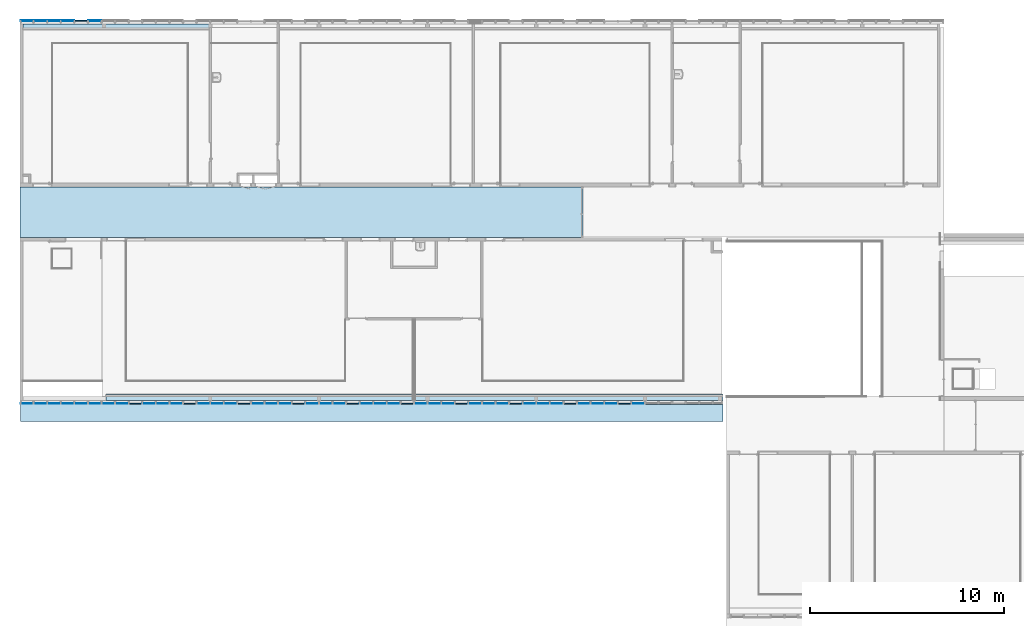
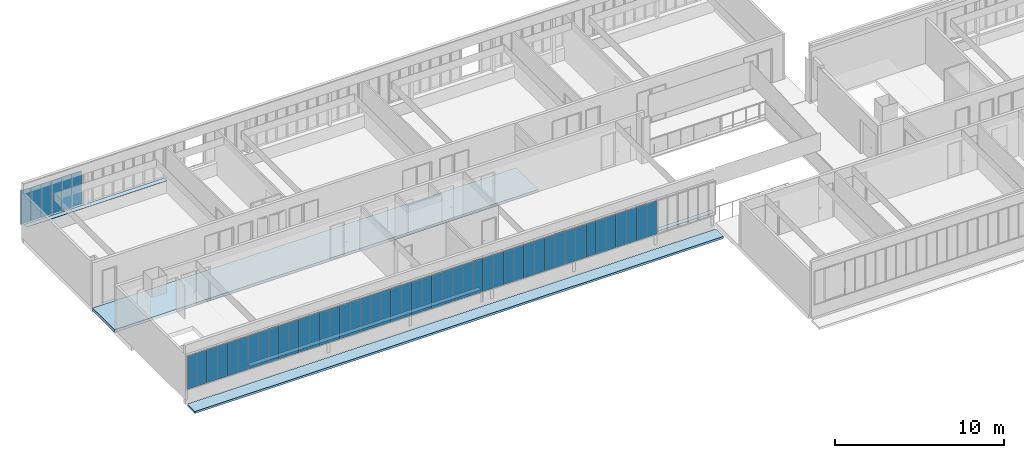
# One storey, part 19 of 87: 52 plates, 5 slabs, 2 elements without a shape of their own.
"""IFC2X3 building model written with IfcOpenShell, lengths in centimetres."""

from ifc_helpers import new_model, entity, si_unit, converted_unit, derived_unit, direction, frame, frame_2d, origin, origin_2d_with_axis, place, context, subcontext, project, spatial, rectangle, extrude, face_set, faceted_brep, surface_model, source, transform, mapped, material, layer, layer_set, layer_usage, type_object, type_shapes, element, aggregate, save


model = new_model("IFC2X3")

# Units and contexts
model_context = context("Model", 3, precision=0.001, world=origin(), true_north=direction((6.12303176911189e-17, 1.0)))
body_context = subcontext(model_context, "Body", "Model", "MODEL_VIEW")
ifc_project = project(units=[si_unit("LENGTHUNIT", "METRE", prefix="CENTI"), si_unit("AREAUNIT", "SQUARE_METRE"), si_unit("VOLUMEUNIT", "CUBIC_METRE"), converted_unit("PLANEANGLEUNIT", "DEGREE", entity("IfcRatioMeasure", 0.0174532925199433), si_unit("PLANEANGLEUNIT", "RADIAN"), dimensions=[0, 0, 0, 0, 0, 0, 0]), si_unit("MASSUNIT", "GRAM", prefix="KILO"), derived_unit("MASSDENSITYUNIT", [(si_unit("MASSUNIT", "GRAM", prefix="KILO"), 1), (si_unit("LENGTHUNIT", "METRE"), -3)]), si_unit("TIMEUNIT", "SECOND"), si_unit("FREQUENCYUNIT", "HERTZ"), si_unit("THERMODYNAMICTEMPERATUREUNIT", "DEGREE_CELSIUS"), derived_unit("THERMALTRANSMITTANCEUNIT", [(si_unit("MASSUNIT", "GRAM", prefix="KILO"), 1), (si_unit("THERMODYNAMICTEMPERATUREUNIT", "KELVIN"), -1), (si_unit("TIMEUNIT", "SECOND"), -3)]), derived_unit("VOLUMETRICFLOWRATEUNIT", [(si_unit("LENGTHUNIT", "METRE"), 3), (si_unit("TIMEUNIT", "SECOND"), -1)]), si_unit("ELECTRICCURRENTUNIT", "AMPERE"), si_unit("ELECTRICVOLTAGEUNIT", "VOLT"), si_unit("POWERUNIT", "WATT"), si_unit("FORCEUNIT", "NEWTON", prefix="KILO"), si_unit("ILLUMINANCEUNIT", "LUX"), si_unit("LUMINOUSFLUXUNIT", "LUMEN"), si_unit("LUMINOUSINTENSITYUNIT", "CANDELA"), derived_unit("USERDEFINED", [(si_unit("MASSUNIT", "GRAM", prefix="KILO"), -1), (si_unit("LENGTHUNIT", "METRE"), -2), (si_unit("TIMEUNIT", "SECOND"), 3), (si_unit("LUMINOUSFLUXUNIT", "LUMEN"), 1)]), derived_unit("LINEARVELOCITYUNIT", [(si_unit("LENGTHUNIT", "METRE"), 1), (si_unit("TIMEUNIT", "SECOND"), -1)]), si_unit("PRESSUREUNIT", "PASCAL"), derived_unit("USERDEFINED", [(si_unit("LENGTHUNIT", "METRE"), -2), (si_unit("MASSUNIT", "GRAM", prefix="KILO"), 1), (si_unit("TIMEUNIT", "SECOND"), -2)])], contexts=[model_context])

# Site, building, storey
site_placement = place(None, frame((-2781.94577612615, 7442.24238424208, 0.0)))
site = spatial("IfcSite", under=ifc_project, at=site_placement, Name="Default", CompositionType="ELEMENT")
building_placement = place(site_placement, origin())
building = spatial("IfcBuilding", under=site, at=building_placement, CompositionType="ELEMENT")
storey_placement = place(building_placement, frame((0.0, 0.0, 774.0)))
storey = spatial("IfcBuildingStorey", under=building, at=storey_placement, Name="TR - N02 - ARCH", CompositionType="ELEMENT", Elevation=774.0)

# Curtain wall, plate
curtain_wall_type = type_object("IfcCurtainWallType", Name="Mur-rideau:07 - mur rideau trame 70cm", PredefinedType="NOTDEFINED")
curtain_wall_1_placement = place(storey_placement, frame((0.0, 0.0, -774.0)))
curtain_wall_1 = element("IfcCurtainWall", 1, at=curtain_wall_1_placement, inside=storey, type_object=curtain_wall_type, Name="Mur-rideau:07 - mur rideau trame 70cm", ObjectType="Mur-rideau:07 - mur rideau trame 70cm")
ifc_material_1 = material(Name="Verre")
ifc_layer_1 = layer(ifc_material_1, 4.0)
ifc_layer_set_1 = layer_set([ifc_layer_1], Name="Panneau système:Vitré")
ifc_layer_usage_1 = layer_usage(ifc_layer_set_1, "AXIS3", "POSITIVE", 0.0)
plate_type_1 = type_object("IfcPlateType", Name="Vitré", PredefinedType="CURTAIN_PANEL", material=ifc_layer_set_1)
shared_shape_1 = source(origin(), body_context, "Body", "SweptSolid", [
    extrude(rectangle(XDim=4.0, YDim=65.0125000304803, at=origin_2d_with_axis()), frame((0.0, 0.0, 0.0), z_axis=(0.0, 0.0, 1.0), x_axis=(0.0, 1.0, 0.0)), (0.0, 0.0, 1.0), 240.7625),
])
type_shapes(plate_type_1, [shared_shape_1])
plate_1_placement = place(curtain_wall_1_placement, frame((-8372.87487763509, 26.2000000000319, 861.61875), z_axis=(0.0, 0.0, 1.0), x_axis=(-1.0, 0.0, 0.0)))
plate_1 = element("IfcPlate", 2, at=plate_1_placement, type_object=plate_type_1, material=ifc_layer_usage_1, Name="Panneau système:Vitré", ObjectType="Panneau système:Vitré", context=body_context, shape_type="MappedRepresentation", body=[
    mapped(shared_shape_1, transform((0.0, 0.0, 0.0), scale=1.0)),
])

curtain_wall_2_placement = place(storey_placement, frame((0.0, 0.0, -774.0)))
curtain_wall_2 = element("IfcCurtainWall", 3, at=curtain_wall_2_placement, inside=storey, type_object=curtain_wall_type, Name="Mur-rideau:07 - mur rideau trame 70cm", ObjectType="Mur-rideau:07 - mur rideau trame 70cm")
ifc_layer_usage_2 = layer_usage(ifc_layer_set_1, "AXIS3", "POSITIVE", 0.0)
plate_2_placement = place(curtain_wall_2_placement, frame((-8372.87487765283, -1946.27903364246, 861.61875)))
plate_2 = element("IfcPlate", 4, at=plate_2_placement, type_object=plate_type_1, material=ifc_layer_usage_2, Name="Panneau système:Vitré", ObjectType="Panneau système:Vitré", context=body_context, shape_type="MappedRepresentation", body=[
    mapped(shared_shape_1, transform((0.0, 0.0, 0.0), scale=1.0)),
])

# Plate
ifc_layer_usage_3 = layer_usage(ifc_layer_set_1, "AXIS3", "POSITIVE", 0.0)
plate_type_2 = type_object("IfcPlateType", Name="Vitré", PredefinedType="CURTAIN_PANEL", material=ifc_layer_set_1)
shared_shape_2 = source(origin(), body_context, "Body", "SweptSolid", [
    extrude(rectangle(XDim=4.0, YDim=68.2624999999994, at=origin_2d_with_axis()), frame((0.0, 0.0, 0.0), z_axis=(0.0, 0.0, 1.0), x_axis=(0.0, 1.0, 0.0)), (0.0, 0.0, 1.0), 240.7625),
])
type_shapes(plate_type_2, [shared_shape_2])
plate_3_placement = place(curtain_wall_1_placement, frame((-8024.4998776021, 26.2000000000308, 861.61875), z_axis=(0.0, 0.0, 1.0), x_axis=(-1.0, 0.0, 0.0)))
plate_3 = element("IfcPlate", 5, at=plate_3_placement, type_object=plate_type_2, material=ifc_layer_usage_3, Name="Panneau système:Vitré", ObjectType="Panneau système:Vitré", context=body_context, shape_type="MappedRepresentation", body=[
    mapped(shared_shape_2, transform((0.0, 0.0, 0.0), scale=1.0)),
])

ifc_layer_usage_4 = layer_usage(ifc_layer_set_1, "AXIS3", "POSITIVE", 0.0)
plate_4_placement = place(curtain_wall_1_placement, frame((-8164.4998776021, 26.2000000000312, 861.61875), z_axis=(0.0, 0.0, 1.0), x_axis=(-1.0, 0.0, 0.0)))
plate_4 = element("IfcPlate", 6, at=plate_4_placement, type_object=plate_type_2, material=ifc_layer_usage_4, Name="Panneau système:Vitré", ObjectType="Panneau système:Vitré", context=body_context, shape_type="MappedRepresentation", body=[
    mapped(shared_shape_2, transform((0.0, 0.0, 0.0), scale=1.0)),
])

ifc_layer_usage_5 = layer_usage(ifc_layer_set_1, "AXIS3", "POSITIVE", 0.0)
plate_5_placement = place(curtain_wall_1_placement, frame((-8234.49987760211, 26.2000000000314, 861.61875), z_axis=(0.0, 0.0, 1.0), x_axis=(-1.0, 0.0, 0.0)))
plate_5 = element("IfcPlate", 7, at=plate_5_placement, type_object=plate_type_2, material=ifc_layer_usage_5, Name="Panneau système:Vitré", ObjectType="Panneau système:Vitré", context=body_context, shape_type="MappedRepresentation", body=[
    mapped(shared_shape_2, transform((0.0, 0.0, 0.0), scale=1.0)),
])

ifc_layer_usage_6 = layer_usage(ifc_layer_set_1, "AXIS3", "POSITIVE", 0.0)
plate_6_placement = place(curtain_wall_1_placement, frame((-8304.4998776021, 26.2000000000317, 861.61875), z_axis=(0.0, 0.0, 1.0), x_axis=(-1.0, 0.0, 0.0)))
plate_6 = element("IfcPlate", 8, at=plate_6_placement, type_object=plate_type_2, material=ifc_layer_usage_6, Name="Panneau système:Vitré", ObjectType="Panneau système:Vitré", context=body_context, shape_type="MappedRepresentation", body=[
    mapped(shared_shape_2, transform((0.0, 0.0, 0.0), scale=1.0)),
])

ifc_layer_usage_7 = layer_usage(ifc_layer_set_1, "AXIS3", "POSITIVE", 0.0)
plate_7_placement = place(curtain_wall_2_placement, frame((-8304.49987763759, -1946.27903364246, 861.61875)))
plate_7 = element("IfcPlate", 9, at=plate_7_placement, type_object=plate_type_2, material=ifc_layer_usage_7, Name="Panneau système:Vitré", ObjectType="Panneau système:Vitré", context=body_context, shape_type="MappedRepresentation", body=[
    mapped(shared_shape_2, transform((0.0, 0.0, 0.0), scale=1.0)),
])

ifc_layer_usage_8 = layer_usage(ifc_layer_set_1, "AXIS3", "POSITIVE", 0.0)
plate_8_placement = place(curtain_wall_2_placement, frame((-8234.49987763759, -1946.27903364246, 861.61875)))
plate_8 = element("IfcPlate", 10, at=plate_8_placement, type_object=plate_type_2, material=ifc_layer_usage_8, Name="Panneau système:Vitré", ObjectType="Panneau système:Vitré", context=body_context, shape_type="MappedRepresentation", body=[
    mapped(shared_shape_2, transform((0.0, 0.0, 0.0), scale=1.0)),
])

ifc_layer_usage_9 = layer_usage(ifc_layer_set_1, "AXIS3", "POSITIVE", 0.0)
plate_9_placement = place(curtain_wall_2_placement, frame((-8164.49987763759, -1946.27903364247, 861.61875)))
plate_9 = element("IfcPlate", 11, at=plate_9_placement, type_object=plate_type_2, material=ifc_layer_usage_9, Name="Panneau système:Vitré", ObjectType="Panneau système:Vitré", context=body_context, shape_type="MappedRepresentation", body=[
    mapped(shared_shape_2, transform((0.0, 0.0, 0.0), scale=1.0)),
])

ifc_layer_usage_10 = layer_usage(ifc_layer_set_1, "AXIS3", "POSITIVE", 0.0)
plate_10_placement = place(curtain_wall_2_placement, frame((-8094.49987763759, -1946.27903364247, 861.61875)))
plate_10 = element("IfcPlate", 12, at=plate_10_placement, type_object=plate_type_2, material=ifc_layer_usage_10, Name="Panneau système:Vitré", ObjectType="Panneau système:Vitré", context=body_context, shape_type="MappedRepresentation", body=[
    mapped(shared_shape_2, transform((0.0, 0.0, 0.0), scale=1.0)),
])

ifc_layer_usage_11 = layer_usage(ifc_layer_set_1, "AXIS3", "POSITIVE", 0.0)
plate_11_placement = place(curtain_wall_2_placement, frame((-8024.49987763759, -1946.27903364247, 861.61875)))
plate_11 = element("IfcPlate", 13, at=plate_11_placement, type_object=plate_type_2, material=ifc_layer_usage_11, Name="Panneau système:Vitré", ObjectType="Panneau système:Vitré", context=body_context, shape_type="MappedRepresentation", body=[
    mapped(shared_shape_2, transform((0.0, 0.0, 0.0), scale=1.0)),
])

ifc_layer_usage_12 = layer_usage(ifc_layer_set_1, "AXIS3", "POSITIVE", 0.0)
plate_12_placement = place(curtain_wall_2_placement, frame((-7954.49987763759, -1946.27903364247, 861.61875)))
plate_12 = element("IfcPlate", 14, at=plate_12_placement, type_object=plate_type_2, material=ifc_layer_usage_12, Name="Panneau système:Vitré", ObjectType="Panneau système:Vitré", context=body_context, shape_type="MappedRepresentation", body=[
    mapped(shared_shape_2, transform((0.0, 0.0, 0.0), scale=1.0)),
])

ifc_layer_usage_13 = layer_usage(ifc_layer_set_1, "AXIS3", "POSITIVE", 0.0)
plate_13_placement = place(curtain_wall_2_placement, frame((-7884.49987763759, -1946.27903364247, 861.61875)))
plate_13 = element("IfcPlate", 15, at=plate_13_placement, type_object=plate_type_2, material=ifc_layer_usage_13, Name="Panneau système:Vitré", ObjectType="Panneau système:Vitré", context=body_context, shape_type="MappedRepresentation", body=[
    mapped(shared_shape_2, transform((0.0, 0.0, 0.0), scale=1.0)),
])

ifc_layer_usage_14 = layer_usage(ifc_layer_set_1, "AXIS3", "POSITIVE", 0.0)
plate_14_placement = place(curtain_wall_2_placement, frame((-7744.49987763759, -1946.27903364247, 861.61875)))
plate_14 = element("IfcPlate", 16, at=plate_14_placement, type_object=plate_type_2, material=ifc_layer_usage_14, Name="Panneau système:Vitré", ObjectType="Panneau système:Vitré", context=body_context, shape_type="MappedRepresentation", body=[
    mapped(shared_shape_2, transform((0.0, 0.0, 0.0), scale=1.0)),
])

ifc_layer_usage_15 = layer_usage(ifc_layer_set_1, "AXIS3", "POSITIVE", 0.0)
plate_15_placement = place(curtain_wall_2_placement, frame((-7674.49987763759, -1946.27903364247, 861.61875)))
plate_15 = element("IfcPlate", 17, at=plate_15_placement, type_object=plate_type_2, material=ifc_layer_usage_15, Name="Panneau système:Vitré", ObjectType="Panneau système:Vitré", context=body_context, shape_type="MappedRepresentation", body=[
    mapped(shared_shape_2, transform((0.0, 0.0, 0.0), scale=1.0)),
])

ifc_layer_usage_16 = layer_usage(ifc_layer_set_1, "AXIS3", "POSITIVE", 0.0)
plate_16_placement = place(curtain_wall_2_placement, frame((-7604.49987763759, -1946.27903364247, 861.61875)))
plate_16 = element("IfcPlate", 18, at=plate_16_placement, type_object=plate_type_2, material=ifc_layer_usage_16, Name="Panneau système:Vitré", ObjectType="Panneau système:Vitré", context=body_context, shape_type="MappedRepresentation", body=[
    mapped(shared_shape_2, transform((0.0, 0.0, 0.0), scale=1.0)),
])

ifc_layer_usage_17 = layer_usage(ifc_layer_set_1, "AXIS3", "POSITIVE", 0.0)
plate_17_placement = place(curtain_wall_2_placement, frame((-7464.49987763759, -1946.27903364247, 861.61875)))
plate_17 = element("IfcPlate", 19, at=plate_17_placement, type_object=plate_type_2, material=ifc_layer_usage_17, Name="Panneau système:Vitré", ObjectType="Panneau système:Vitré", context=body_context, shape_type="MappedRepresentation", body=[
    mapped(shared_shape_2, transform((0.0, 0.0, 0.0), scale=1.0)),
])

ifc_layer_usage_18 = layer_usage(ifc_layer_set_1, "AXIS3", "POSITIVE", 0.0)
plate_18_placement = place(curtain_wall_2_placement, frame((-7394.49987763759, -1946.27903364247, 861.61875)))
plate_18 = element("IfcPlate", 20, at=plate_18_placement, type_object=plate_type_2, material=ifc_layer_usage_18, Name="Panneau système:Vitré", ObjectType="Panneau système:Vitré", context=body_context, shape_type="MappedRepresentation", body=[
    mapped(shared_shape_2, transform((0.0, 0.0, 0.0), scale=1.0)),
])

ifc_layer_usage_19 = layer_usage(ifc_layer_set_1, "AXIS3", "POSITIVE", 0.0)
plate_19_placement = place(curtain_wall_2_placement, frame((-7324.49987763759, -1946.27903364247, 861.61875)))
plate_19 = element("IfcPlate", 21, at=plate_19_placement, type_object=plate_type_2, material=ifc_layer_usage_19, Name="Panneau système:Vitré", ObjectType="Panneau système:Vitré", context=body_context, shape_type="MappedRepresentation", body=[
    mapped(shared_shape_2, transform((0.0, 0.0, 0.0), scale=1.0)),
])

ifc_layer_usage_20 = layer_usage(ifc_layer_set_1, "AXIS3", "POSITIVE", 0.0)
plate_20_placement = place(curtain_wall_2_placement, frame((-7184.49987763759, -1946.27903364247, 861.61875)))
plate_20 = element("IfcPlate", 22, at=plate_20_placement, type_object=plate_type_2, material=ifc_layer_usage_20, Name="Panneau système:Vitré", ObjectType="Panneau système:Vitré", context=body_context, shape_type="MappedRepresentation", body=[
    mapped(shared_shape_2, transform((0.0, 0.0, 0.0), scale=1.0)),
])

ifc_layer_usage_21 = layer_usage(ifc_layer_set_1, "AXIS3", "POSITIVE", 0.0)
plate_21_placement = place(curtain_wall_2_placement, frame((-7114.49987763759, -1946.27903364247, 861.61875)))
plate_21 = element("IfcPlate", 23, at=plate_21_placement, type_object=plate_type_2, material=ifc_layer_usage_21, Name="Panneau système:Vitré", ObjectType="Panneau système:Vitré", context=body_context, shape_type="MappedRepresentation", body=[
    mapped(shared_shape_2, transform((0.0, 0.0, 0.0), scale=1.0)),
])

ifc_layer_usage_22 = layer_usage(ifc_layer_set_1, "AXIS3", "POSITIVE", 0.0)
plate_22_placement = place(curtain_wall_2_placement, frame((-7044.49987763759, -1946.27903364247, 861.61875)))
plate_22 = element("IfcPlate", 24, at=plate_22_placement, type_object=plate_type_2, material=ifc_layer_usage_22, Name="Panneau système:Vitré", ObjectType="Panneau système:Vitré", context=body_context, shape_type="MappedRepresentation", body=[
    mapped(shared_shape_2, transform((0.0, 0.0, 0.0), scale=1.0)),
])

ifc_layer_usage_23 = layer_usage(ifc_layer_set_1, "AXIS3", "POSITIVE", 0.0)
plate_23_placement = place(curtain_wall_2_placement, frame((-6904.49987763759, -1946.27903364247, 861.61875)))
plate_23 = element("IfcPlate", 25, at=plate_23_placement, type_object=plate_type_2, material=ifc_layer_usage_23, Name="Panneau système:Vitré", ObjectType="Panneau système:Vitré", context=body_context, shape_type="MappedRepresentation", body=[
    mapped(shared_shape_2, transform((0.0, 0.0, 0.0), scale=1.0)),
])

ifc_layer_usage_24 = layer_usage(ifc_layer_set_1, "AXIS3", "POSITIVE", 0.0)
plate_24_placement = place(curtain_wall_2_placement, frame((-6834.49987763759, -1946.27903364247, 861.61875)))
plate_24 = element("IfcPlate", 26, at=plate_24_placement, type_object=plate_type_2, material=ifc_layer_usage_24, Name="Panneau système:Vitré", ObjectType="Panneau système:Vitré", context=body_context, shape_type="MappedRepresentation", body=[
    mapped(shared_shape_2, transform((0.0, 0.0, 0.0), scale=1.0)),
])

ifc_layer_usage_25 = layer_usage(ifc_layer_set_1, "AXIS3", "POSITIVE", 0.0)
plate_25_placement = place(curtain_wall_2_placement, frame((-6764.49987763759, -1946.27903364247, 861.61875)))
plate_25 = element("IfcPlate", 27, at=plate_25_placement, type_object=plate_type_2, material=ifc_layer_usage_25, Name="Panneau système:Vitré", ObjectType="Panneau système:Vitré", context=body_context, shape_type="MappedRepresentation", body=[
    mapped(shared_shape_2, transform((0.0, 0.0, 0.0), scale=1.0)),
])

ifc_layer_usage_26 = layer_usage(ifc_layer_set_1, "AXIS3", "POSITIVE", 0.0)
plate_26_placement = place(curtain_wall_2_placement, frame((-6624.49987763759, -1946.27903364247, 861.61875)))
plate_26 = element("IfcPlate", 28, at=plate_26_placement, type_object=plate_type_2, material=ifc_layer_usage_26, Name="Panneau système:Vitré", ObjectType="Panneau système:Vitré", context=body_context, shape_type="MappedRepresentation", body=[
    mapped(shared_shape_2, transform((0.0, 0.0, 0.0), scale=1.0)),
])

ifc_layer_usage_27 = layer_usage(ifc_layer_set_1, "AXIS3", "POSITIVE", 0.0)
plate_27_placement = place(curtain_wall_2_placement, frame((-6554.49987763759, -1946.27903364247, 861.61875)))
plate_27 = element("IfcPlate", 29, at=plate_27_placement, type_object=plate_type_2, material=ifc_layer_usage_27, Name="Panneau système:Vitré", ObjectType="Panneau système:Vitré", context=body_context, shape_type="MappedRepresentation", body=[
    mapped(shared_shape_2, transform((0.0, 0.0, 0.0), scale=1.0)),
])

ifc_layer_usage_28 = layer_usage(ifc_layer_set_1, "AXIS3", "POSITIVE", 0.0)
plate_28_placement = place(curtain_wall_2_placement, frame((-6484.49987763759, -1946.27903364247, 861.61875)))
plate_28 = element("IfcPlate", 30, at=plate_28_placement, type_object=plate_type_2, material=ifc_layer_usage_28, Name="Panneau système:Vitré", ObjectType="Panneau système:Vitré", context=body_context, shape_type="MappedRepresentation", body=[
    mapped(shared_shape_2, transform((0.0, 0.0, 0.0), scale=1.0)),
])

ifc_layer_usage_29 = layer_usage(ifc_layer_set_1, "AXIS3", "POSITIVE", 0.0)
plate_29_placement = place(curtain_wall_2_placement, frame((-6344.49987763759, -1946.27903364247, 861.61875)))
plate_29 = element("IfcPlate", 31, at=plate_29_placement, type_object=plate_type_2, material=ifc_layer_usage_29, Name="Panneau système:Vitré", ObjectType="Panneau système:Vitré", context=body_context, shape_type="MappedRepresentation", body=[
    mapped(shared_shape_2, transform((0.0, 0.0, 0.0), scale=1.0)),
])

ifc_layer_usage_30 = layer_usage(ifc_layer_set_1, "AXIS3", "POSITIVE", 0.0)
plate_30_placement = place(curtain_wall_2_placement, frame((-6274.49987763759, -1946.27903364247, 861.61875)))
plate_30 = element("IfcPlate", 32, at=plate_30_placement, type_object=plate_type_2, material=ifc_layer_usage_30, Name="Panneau système:Vitré", ObjectType="Panneau système:Vitré", context=body_context, shape_type="MappedRepresentation", body=[
    mapped(shared_shape_2, transform((0.0, 0.0, 0.0), scale=1.0)),
])

ifc_layer_usage_31 = layer_usage(ifc_layer_set_1, "AXIS3", "POSITIVE", 0.0)
plate_31_placement = place(curtain_wall_2_placement, frame((-6204.49987763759, -1946.27903364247, 861.61875)))
plate_31 = element("IfcPlate", 33, at=plate_31_placement, type_object=plate_type_2, material=ifc_layer_usage_31, Name="Panneau système:Vitré", ObjectType="Panneau système:Vitré", context=body_context, shape_type="MappedRepresentation", body=[
    mapped(shared_shape_2, transform((0.0, 0.0, 0.0), scale=1.0)),
])

ifc_layer_usage_32 = layer_usage(ifc_layer_set_1, "AXIS3", "POSITIVE", 0.0)
plate_32_placement = place(curtain_wall_2_placement, frame((-6064.49987763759, -1946.27903364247, 861.61875)))
plate_32 = element("IfcPlate", 34, at=plate_32_placement, type_object=plate_type_2, material=ifc_layer_usage_32, Name="Panneau système:Vitré", ObjectType="Panneau système:Vitré", context=body_context, shape_type="MappedRepresentation", body=[
    mapped(shared_shape_2, transform((0.0, 0.0, 0.0), scale=1.0)),
])

ifc_layer_usage_33 = layer_usage(ifc_layer_set_1, "AXIS3", "POSITIVE", 0.0)
plate_33_placement = place(curtain_wall_2_placement, frame((-5994.49987763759, -1946.27903364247, 861.61875)))
plate_33 = element("IfcPlate", 35, at=plate_33_placement, type_object=plate_type_2, material=ifc_layer_usage_33, Name="Panneau système:Vitré", ObjectType="Panneau système:Vitré", context=body_context, shape_type="MappedRepresentation", body=[
    mapped(shared_shape_2, transform((0.0, 0.0, 0.0), scale=1.0)),
])

ifc_layer_usage_34 = layer_usage(ifc_layer_set_1, "AXIS3", "POSITIVE", 0.0)
plate_34_placement = place(curtain_wall_2_placement, frame((-5924.49987763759, -1946.27903364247, 861.61875)))
plate_34 = element("IfcPlate", 36, at=plate_34_placement, type_object=plate_type_2, material=ifc_layer_usage_34, Name="Panneau système:Vitré", ObjectType="Panneau système:Vitré", context=body_context, shape_type="MappedRepresentation", body=[
    mapped(shared_shape_2, transform((0.0, 0.0, 0.0), scale=1.0)),
])

ifc_layer_usage_35 = layer_usage(ifc_layer_set_1, "AXIS3", "POSITIVE", 0.0)
plate_35_placement = place(curtain_wall_2_placement, frame((-5784.49987763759, -1946.27903364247, 861.61875)))
plate_35 = element("IfcPlate", 37, at=plate_35_placement, type_object=plate_type_2, material=ifc_layer_usage_35, Name="Panneau système:Vitré", ObjectType="Panneau système:Vitré", context=body_context, shape_type="MappedRepresentation", body=[
    mapped(shared_shape_2, transform((0.0, 0.0, 0.0), scale=1.0)),
])

ifc_layer_usage_36 = layer_usage(ifc_layer_set_1, "AXIS3", "POSITIVE", 0.0)
plate_36_placement = place(curtain_wall_2_placement, frame((-5714.49987763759, -1946.27903364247, 861.61875)))
plate_36 = element("IfcPlate", 38, at=plate_36_placement, type_object=plate_type_2, material=ifc_layer_usage_36, Name="Panneau système:Vitré", ObjectType="Panneau système:Vitré", context=body_context, shape_type="MappedRepresentation", body=[
    mapped(shared_shape_2, transform((0.0, 0.0, 0.0), scale=1.0)),
])

ifc_layer_usage_37 = layer_usage(ifc_layer_set_1, "AXIS3", "POSITIVE", 0.0)
plate_37_placement = place(curtain_wall_2_placement, frame((-5644.49987763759, -1946.27903364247, 861.61875)))
plate_37 = element("IfcPlate", 39, at=plate_37_placement, type_object=plate_type_2, material=ifc_layer_usage_37, Name="Panneau système:Vitré", ObjectType="Panneau système:Vitré", context=body_context, shape_type="MappedRepresentation", body=[
    mapped(shared_shape_2, transform((0.0, 0.0, 0.0), scale=1.0)),
])

ifc_layer_usage_38 = layer_usage(ifc_layer_set_1, "AXIS3", "POSITIVE", 0.0)
plate_38_placement = place(curtain_wall_2_placement, frame((-5504.49987763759, -1946.27903364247, 861.61875)))
plate_38 = element("IfcPlate", 40, at=plate_38_placement, type_object=plate_type_2, material=ifc_layer_usage_38, Name="Panneau système:Vitré", ObjectType="Panneau système:Vitré", context=body_context, shape_type="MappedRepresentation", body=[
    mapped(shared_shape_2, transform((0.0, 0.0, 0.0), scale=1.0)),
])

ifc_layer_usage_39 = layer_usage(ifc_layer_set_1, "AXIS3", "POSITIVE", 0.0)
plate_39_placement = place(curtain_wall_2_placement, frame((-5434.49987763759, -1946.27903364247, 861.61875)))
plate_39 = element("IfcPlate", 41, at=plate_39_placement, type_object=plate_type_2, material=ifc_layer_usage_39, Name="Panneau système:Vitré", ObjectType="Panneau système:Vitré", context=body_context, shape_type="MappedRepresentation", body=[
    mapped(shared_shape_2, transform((0.0, 0.0, 0.0), scale=1.0)),
])

ifc_layer_usage_40 = layer_usage(ifc_layer_set_1, "AXIS3", "POSITIVE", 0.0)
plate_40_placement = place(curtain_wall_2_placement, frame((-5364.49987763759, -1946.27903364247, 861.61875)))
plate_40 = element("IfcPlate", 42, at=plate_40_placement, type_object=plate_type_2, material=ifc_layer_usage_40, Name="Panneau système:Vitré", ObjectType="Panneau système:Vitré", context=body_context, shape_type="MappedRepresentation", body=[
    mapped(shared_shape_2, transform((0.0, 0.0, 0.0), scale=1.0)),
])

ifc_layer_usage_41 = layer_usage(ifc_layer_set_1, "AXIS3", "POSITIVE", 0.0)
plate_41_placement = place(curtain_wall_2_placement, frame((-5224.49987763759, -1946.27903364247, 861.61875)))
plate_41 = element("IfcPlate", 43, at=plate_41_placement, type_object=plate_type_2, material=ifc_layer_usage_41, Name="Panneau système:Vitré", ObjectType="Panneau système:Vitré", context=body_context, shape_type="MappedRepresentation", body=[
    mapped(shared_shape_2, transform((0.0, 0.0, 0.0), scale=1.0)),
])

plate_type_3 = type_object("IfcPlateType", Name="Vitré", PredefinedType="CURTAIN_PANEL", material=ifc_layer_set_1)
shared_shape_3 = source(origin(), body_context, "Body", "Brep", [
    faceted_brep([(-34.13125, -2.0, 1.73749999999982), (34.1312499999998, -2.0, 1.73749999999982), (34.1312499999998, -2.0, 242.5), (-34.1312499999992, -2.0, 242.5), (33.9687499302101, -2.0, 0.0), (33.9687499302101, -2.0, 244.2375), (-34.03125006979, -2.0, 244.2375), (-34.03125006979, -2.0, 0.0), (-34.13125, 2.0, 1.73749999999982), (-34.1312499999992, 2.0, 242.5), (34.1312499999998, 2.0, 242.5), (34.1312499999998, 2.0, 1.73749999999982), (33.9687499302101, 2.0, 0.0), (-34.03125006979, 2.0, 0.0), (-34.03125006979, 2.0, 244.2375), (33.9687499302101, 2.0, 244.2375)], [[[0, 1, 2, 3]], [[4, 5, 6, 7]], [[8, 9, 10, 11]], [[12, 13, 14, 15]], [[1, 0, 8, 11]], [[2, 1, 11, 10]], [[3, 2, 10, 9]], [[0, 3, 9, 8]], [[7, 13, 12, 4]], [[6, 14, 13, 7]], [[5, 15, 14, 6]], [[4, 12, 15, 5]]]),
])
type_shapes(plate_type_3, [shared_shape_3])
plate_42_placement = place(curtain_wall_1_placement, frame((-8094.49987760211, 26.200000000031, 859.88125), z_axis=(0.0, 0.0, 1.0), x_axis=(-1.0, 0.0, 0.0)))
plate_42 = element("IfcPlate", 44, at=plate_42_placement, type_object=plate_type_3, Name="Panneau système:Vitré", ObjectType="Panneau système:Vitré", context=body_context, shape_type="MappedRepresentation", body=[
    mapped(shared_shape_3, transform((0.0, 0.0, 0.0), scale=1.0)),
])

aggregate(curtain_wall_1, [plate_3, plate_42, plate_4, plate_5, plate_6, plate_1])

plate_type_4 = type_object("IfcPlateType", Name="Vitré", PredefinedType="CURTAIN_PANEL", material=ifc_layer_set_1)
shared_shape_4 = source(origin(), body_context, "Body", "SurfaceModel", [
    surface_model("IfcFaceBasedSurfaceModel", [(33.8093776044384, -2.0, 0.0), (33.8093776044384, -2.0, 244.2375), (-34.1906223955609, -2.0, 244.2375), (-34.1906223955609, -2.0, 0.0), (-34.0718776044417, -2.0, 1.73749999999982), (-34.0718776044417, -2.0, 242.5), (34.1906223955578, -2.0, 242.5), (34.1906223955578, -2.0, 1.73749999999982), (-34.0718776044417, 2.0, 1.73749999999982), (34.1906223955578, 2.0, 1.73749999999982), (34.1906223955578, 2.0, 242.5), (-34.0718776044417, 2.0, 242.5), (-34.1906223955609, 2.0, 0.0), (33.8093776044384, 2.0, 0.0), (-34.1906223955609, 2.0, 244.2375), (33.8093776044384, 2.0, 244.2375)], [face_set([[[0, 1, 2, 3], [4, 5, 6, 7]], [[7, 4, 8, 9]], [[6, 7, 9, 10]], [[5, 6, 10, 11]], [[4, 5, 11, 8]], [[3, 12, 13, 0]], [[2, 14, 12, 3]], [[1, 15, 14, 2]], [[0, 13, 15, 1]]])]),
])
type_shapes(plate_type_4, [shared_shape_4])
plate_43_placement = place(curtain_wall_2_placement, frame((-7814.55925003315, -1946.27903364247, 859.88125)))
plate_43 = element("IfcPlate", 45, at=plate_43_placement, type_object=plate_type_4, Name="Panneau système:Vitré", ObjectType="Panneau système:Vitré", context=body_context, shape_type="MappedRepresentation", body=[
    mapped(shared_shape_4, transform((0.0, 0.0, 0.0), scale=1.0)),
])

plate_44_placement = place(curtain_wall_2_placement, frame((-7534.55925003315, -1946.27903364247, 859.88125)))
plate_44 = element("IfcPlate", 46, at=plate_44_placement, type_object=plate_type_4, Name="Panneau système:Vitré", ObjectType="Panneau système:Vitré", context=body_context, shape_type="MappedRepresentation", body=[
    mapped(shared_shape_4, transform((0.0, 0.0, 0.0), scale=1.0)),
])

plate_45_placement = place(curtain_wall_2_placement, frame((-7254.55925003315, -1946.27903364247, 859.88125)))
plate_45 = element("IfcPlate", 47, at=plate_45_placement, type_object=plate_type_4, Name="Panneau système:Vitré", ObjectType="Panneau système:Vitré", context=body_context, shape_type="MappedRepresentation", body=[
    mapped(shared_shape_4, transform((0.0, 0.0, 0.0), scale=1.0)),
])

plate_46_placement = place(curtain_wall_2_placement, frame((-6974.55925003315, -1946.27903364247, 859.88125)))
plate_46 = element("IfcPlate", 48, at=plate_46_placement, type_object=plate_type_4, Name="Panneau système:Vitré", ObjectType="Panneau système:Vitré", context=body_context, shape_type="MappedRepresentation", body=[
    mapped(shared_shape_4, transform((0.0, 0.0, 0.0), scale=1.0)),
])

plate_47_placement = place(curtain_wall_2_placement, frame((-6694.55925003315, -1946.27903364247, 859.88125)))
plate_47 = element("IfcPlate", 49, at=plate_47_placement, type_object=plate_type_4, Name="Panneau système:Vitré", ObjectType="Panneau système:Vitré", context=body_context, shape_type="MappedRepresentation", body=[
    mapped(shared_shape_4, transform((0.0, 0.0, 0.0), scale=1.0)),
])

plate_48_placement = place(curtain_wall_2_placement, frame((-6414.55925003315, -1946.27903364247, 859.88125)))
plate_48 = element("IfcPlate", 50, at=plate_48_placement, type_object=plate_type_4, Name="Panneau système:Vitré", ObjectType="Panneau système:Vitré", context=body_context, shape_type="MappedRepresentation", body=[
    mapped(shared_shape_4, transform((0.0, 0.0, 0.0), scale=1.0)),
])

plate_49_placement = place(curtain_wall_2_placement, frame((-6134.55925003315, -1946.27903364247, 859.88125)))
plate_49 = element("IfcPlate", 51, at=plate_49_placement, type_object=plate_type_4, Name="Panneau système:Vitré", ObjectType="Panneau système:Vitré", context=body_context, shape_type="MappedRepresentation", body=[
    mapped(shared_shape_4, transform((0.0, 0.0, 0.0), scale=1.0)),
])

plate_50_placement = place(curtain_wall_2_placement, frame((-5854.55925003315, -1946.27903364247, 859.88125)))
plate_50 = element("IfcPlate", 52, at=plate_50_placement, type_object=plate_type_4, Name="Panneau système:Vitré", ObjectType="Panneau système:Vitré", context=body_context, shape_type="MappedRepresentation", body=[
    mapped(shared_shape_4, transform((0.0, 0.0, 0.0), scale=1.0)),
])

plate_51_placement = place(curtain_wall_2_placement, frame((-5574.55925003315, -1946.27903364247, 859.88125)))
plate_51 = element("IfcPlate", 53, at=plate_51_placement, type_object=plate_type_4, Name="Panneau système:Vitré", ObjectType="Panneau système:Vitré", context=body_context, shape_type="MappedRepresentation", body=[
    mapped(shared_shape_4, transform((0.0, 0.0, 0.0), scale=1.0)),
])

plate_52_placement = place(curtain_wall_2_placement, frame((-5294.55925003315, -1946.27903364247, 859.88125)))
plate_52 = element("IfcPlate", 54, at=plate_52_placement, type_object=plate_type_4, Name="Panneau système:Vitré", ObjectType="Panneau système:Vitré", context=body_context, shape_type="MappedRepresentation", body=[
    mapped(shared_shape_4, transform((0.0, 0.0, 0.0), scale=1.0)),
])

aggregate(curtain_wall_2, [plate_2, plate_7, plate_8, plate_9, plate_10, plate_11, plate_12, plate_13, plate_43, plate_14, plate_15, plate_16, plate_44, plate_17, plate_18, plate_19, plate_45, plate_20, plate_21, plate_22, plate_46, plate_23, plate_24, plate_25, plate_47, plate_26, plate_27, plate_28, plate_48, plate_29, plate_30, plate_31, plate_49, plate_32, plate_33, plate_34, plate_50, plate_35, plate_36, plate_37, plate_51, plate_38, plate_39, plate_40, plate_52, plate_41])

# Slabs
ifc_material_2 = material(Name="Metal - Steel - ASTM A36")
ifc_layer_2 = layer(ifc_material_2, 15.0)
ifc_layer_set_2 = layer_set([ifc_layer_2], Name="Sol:02 - Dalle épine")
ifc_layer_usage_42 = layer_usage(ifc_layer_set_2, "AXIS3", "POSITIVE", 0.0)
slab_type_1 = type_object("IfcSlabType", Name="Sol:02 - Dalle épine", PredefinedType="FLOOR", material=ifc_layer_set_2)
slab_1_placement = place(storey_placement, origin())
element("IfcSlab", 55, at=slab_1_placement, inside=storey, type_object=slab_type_1, material=ifc_layer_usage_42, Name="Sol:02 - Dalle épine", ObjectType="Sol:02 - Dalle épine", PredefinedType="FLOOR", context=body_context, shape_type="SweptSolid", body=[
    extrude(rectangle(XDim=89.9999999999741, YDim=3619.00000003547, at=frame_2d((-1.06581410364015e-13, 9.09494701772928e-13), x_axis=(1.0, 0.0))), frame((-6597.49987761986, -1995.07903364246, -16.0), z_axis=(0.0, 0.0, -1.0), x_axis=(0.0, 1.0, 0.0)), (0.0, 0.0, 1.0), 15.0000000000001),
])
ifc_material_3 = material(Name="Béton, coulé sur place")
ifc_layer_3 = layer(ifc_material_3, 1.0)
ifc_material_4 = material(Name="01 - Maçonnerie")
ifc_layer_4 = layer(ifc_material_4, 20.0)
ifc_layer_set_3 = layer_set([ifc_layer_3, ifc_layer_4], Name="Sol:02 - dalle béton 20cm + finition 1cm")
ifc_layer_usage_43 = layer_usage(ifc_layer_set_3, "AXIS3", "POSITIVE", 0.0)
slab_type_2 = type_object("IfcSlabType", Name="Sol:02 - dalle béton 20cm + finition 1cm", PredefinedType="FLOOR")
slab_2_placement = place(storey_placement, frame((-8409.49987766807, -2190.15656731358, -21.0)))
element("IfcSlab", 56, at=slab_2_placement, inside=storey, type_object=slab_type_2, material=ifc_layer_usage_43, Name="Sol:02 - dalle béton 20cm + finition 1cm", ObjectType="Sol:02 - dalle béton 20cm + finition 1cm", PredefinedType="FLOOR", context=body_context, shape_type="SweptSolid", body=[
    extrude(rectangle(XDim=259.951498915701, YDim=2901.50000006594, at=frame_2d((2549.0, 550.078283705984), x_axis=(0.0, -1.0))), frame((3999.74999741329, 680.054033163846, 21.0), z_axis=(0.0, 0.0, -1.0), x_axis=(-1.0, 0.0, 0.0)), (0.0, 0.0, 1.0), 21.0),
])
ifc_material_5 = material(Name="Bois tablettes")
ifc_layer_5 = layer(ifc_material_5, 2.0)
ifc_layer_set_4 = layer_set([ifc_layer_5], Name="Sol:02 - Tablette bois 2cm")
ifc_layer_usage_44 = layer_usage(ifc_layer_set_4, "AXIS3", "POSITIVE", 0.0)
slab_type_3 = type_object("IfcSlabType", Name="Sol:02 - Tablette bois 2cm", PredefinedType="FLOOR")
slab_3_placement = place(storey_placement, frame((-7966.49987760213, -3031.21349958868, 88.0)))
element("IfcSlab", 57, at=slab_3_placement, inside=storey, type_object=slab_type_3, material=ifc_layer_usage_44, Name="Sol:02 - Tablette bois 2cm:6", ObjectType="Sol:02 - Tablette bois 2cm", PredefinedType="FLOOR", context=body_context, shape_type="SweptSolid", body=[
    extrude(rectangle(XDim=1586.5, YDim=32.0000000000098, at=frame_2d((1383.0, 550.567232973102), x_axis=(-1.0, 0.0))), frame((3768.24999738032, 566.567232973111, 2.0), z_axis=(0.0, 0.0, -1.0), x_axis=(-1.0, 0.0, 0.0)), (0.0, 0.0, 1.0), 1.99999999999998),
])
slab_type_4 = type_object("IfcSlabType", Name="Sol:02 - Tablette bois 2cm", PredefinedType="FLOOR", material=ifc_layer_set_4)
slab_4_placement = place(storey_placement, frame((-7966.49987760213, -3031.21349958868, 88.0)))
element("IfcSlab", 58, at=slab_4_placement, inside=storey, type_object=slab_type_4, material=ifc_layer_usage_44, Name="Sol:02 - Tablette bois 2cm:7", ObjectType="Sol:02 - Tablette bois 2cm", PredefinedType="FLOOR", context=body_context, shape_type="SweptSolid", body=[
    extrude(rectangle(XDim=1582.00000000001, YDim=32.0000000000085, at=frame_2d((2977.24999738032, 550.567232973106), x_axis=(-1.0, 0.0))), frame((3768.24999738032, 566.567232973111, 2.0), z_axis=(0.0, 0.0, -1.0), x_axis=(-1.0, 0.0, 0.0)), (0.0, 0.0, 1.0), 1.99999999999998),
])
ifc_layer_usage_45 = layer_usage(ifc_layer_set_4, "AXIS3", "POSITIVE", 0.0)
slab_type_5 = type_object("IfcSlabType", Name="Sol:02 - Tablette bois 2cm", PredefinedType="FLOOR")
slab_5_placement = place(storey_placement, frame((-8394.19987766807, -1120.0, 88.0)))
element("IfcSlab", 59, at=slab_5_placement, inside=storey, type_object=slab_type_5, material=ifc_layer_usage_45, Name="Sol:02 - Tablette bois 2cm:6", ObjectType="Sol:02 - Tablette bois 2cm", PredefinedType="FLOOR", context=body_context, shape_type="SweptSolid", body=[
    extrude(rectangle(XDim=32.0000000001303, YDim=960.399997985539, at=frame_2d((3294.24999842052, 549.0), x_axis=(0.0, 1.0))), frame((3774.44999741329, 565.0, 2.0), z_axis=(0.0, 0.0, -1.0), x_axis=(-1.0, 0.0, 0.0)), (0.0, 0.0, 1.0), 1.99999999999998),
])

save(model, "model.ifc")
